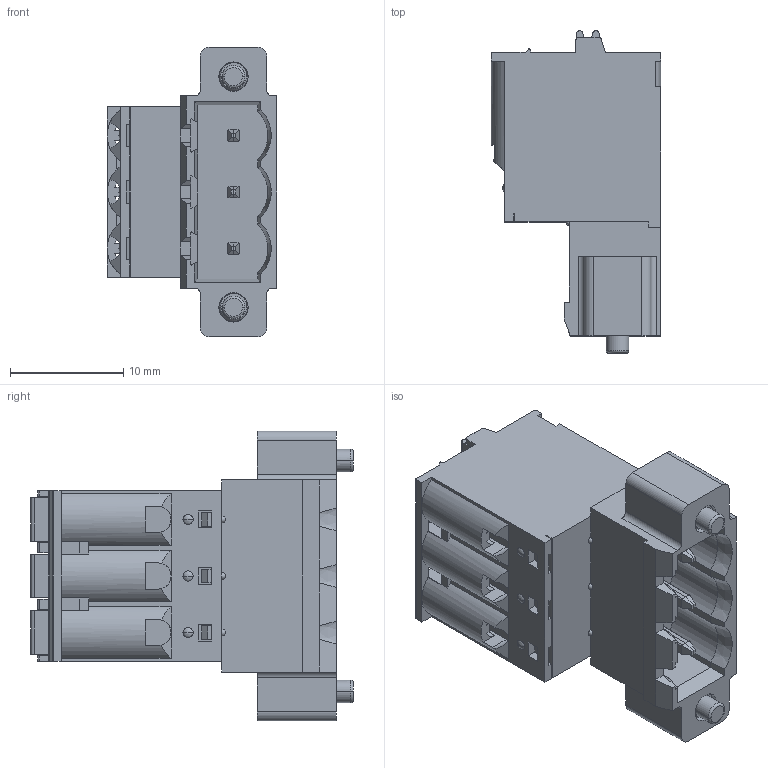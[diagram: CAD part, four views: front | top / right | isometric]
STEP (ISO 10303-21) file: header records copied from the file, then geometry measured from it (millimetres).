
FILE_DESCRIPTION((''),'2;1');
FILE_NAME('3PIN_SW0001','2019-05-30T',('zhenbing.lai'),(''),'CREO PARAMETRIC BY PTC INC, 2016260','CREO PARAMETRIC BY PTC INC, 2016260','');
FILE_SCHEMA(('CONFIG_CONTROL_DESIGN'));
Length unit declared in the file: millimetre
Products named in the file (1): 3PIN_SW0001
Bounding box: 15 x 28.5 x 25.6 mm (x, y, z)
Volume: 4129.9 mm3; surface area: 3322.3 mm2
Topology: 3 solids, 3 shells, 557 faces, 1571 edges, 1033 vertices
Faces by surface type: plane 404, cylinder 93, cone 24, bspline 15, torus 12, sphere 9
Entity records: 24618 total; most frequent: CARTESIAN_POINT 10376, ORIENTED_EDGE 3116, DIRECTION 2717, EDGE_CURVE 1558, VECTOR 1077, LINE 1077, VERTEX_POINT 1033, AXIS2_PLACEMENT_3D 820
